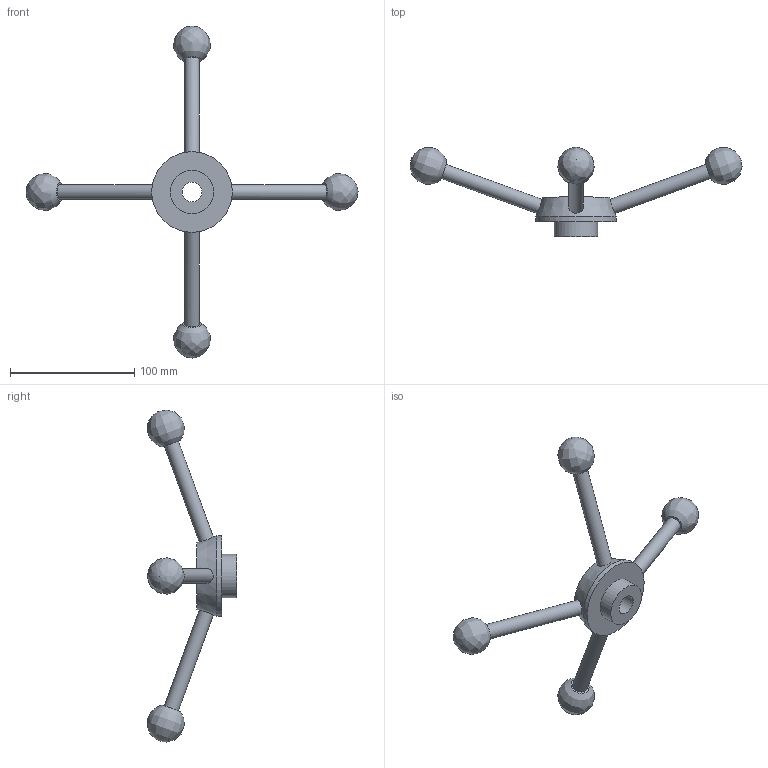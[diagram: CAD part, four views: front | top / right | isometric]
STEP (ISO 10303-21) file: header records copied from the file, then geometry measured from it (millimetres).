
FILE_DESCRIPTION( ( 'STEP AP203' ), '1' );
FILE_NAME( 'C:/Temp/Ganter_Step_05_03_2020/data/2_1/gn_213/gn_213_b/Turret lever GN 213-65-B16.stp', '2020-03-05T11:51:00', ( 'License CC BY-ND 4.0' ), ( 'CADENAS' ), ' ', 'PARTsolutions', ' ' );
FILE_SCHEMA( ( 'CONFIG_CONTROL_DESIGN' ) );
Length unit declared in the file: millimetre
Products named in the file (1): _Turret lever GN 213-65-B16
Bounding box: 267.48 x 71.97 x 267.48 mm (x, y, z)
Volume: 155878.4 mm3; surface area: 34849 mm2
Topology: 1 solids, 1 shells, 19 faces, 42 edges, 29 vertices
Faces by surface type: cylinder 7, plane 7, bspline 4, cone 1
Full cylindrical faces by diameter (mm): 12 x4, 16 x1, 35 x1, 65 x1
Entity records: 866 total; most frequent: CARTESIAN_POINT 508, DIRECTION 62, EDGE_LOOP 38, ORIENTED_EDGE 38, AXIS2_PLACEMENT_3D 31, FACE_OUTER_BOUND 26, VERTEX_POINT 23, ADVANCED_FACE 19
